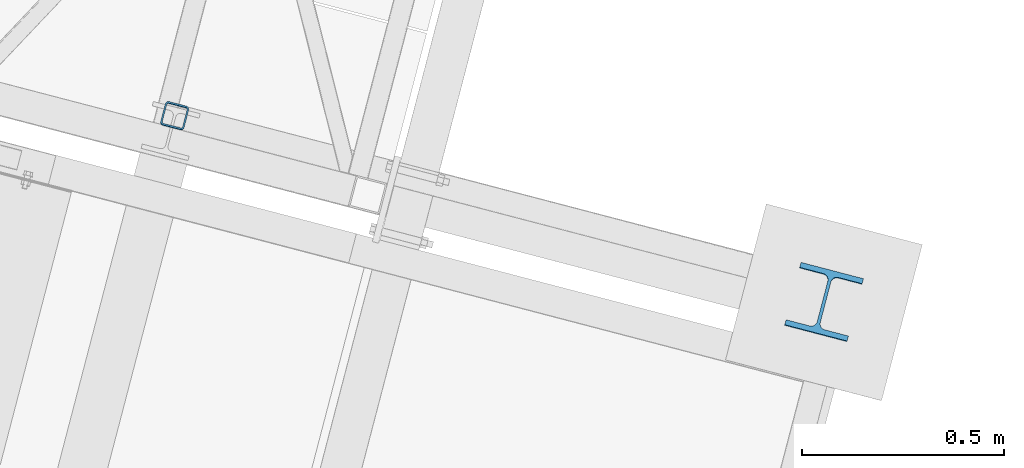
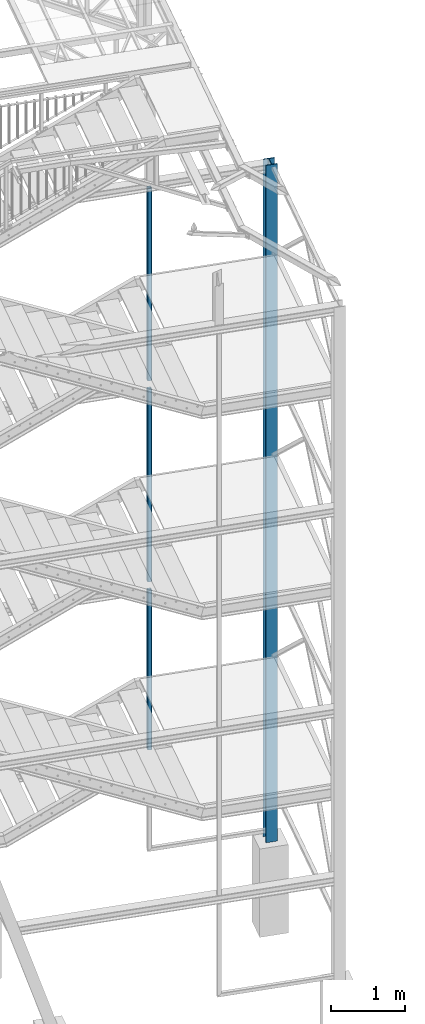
# One storey, part 13 of 169: 4 beams, 4 elements without a shape of their own.
"""IFC2X3 building model written with IfcOpenShell, lengths in millimetres."""

from ifc_helpers import new_model, si_unit, frame, origin_with_axes, origin_2d_with_axis, place, context, subcontext, project, spatial, hollow_rectangle, i_section, extrude, material, type_object, element, aggregate, save


model = new_model("IFC2X3")

# Units and contexts
model_context = context("Model", 3, precision=1e-05, world=origin_with_axes())
body_context = subcontext(model_context, "Body", "Model", "MODEL_VIEW")
ifc_project = project(units=[si_unit("LENGTHUNIT", "METRE", prefix="MILLI"), si_unit("AREAUNIT", "SQUARE_METRE"), si_unit("VOLUMEUNIT", "CUBIC_METRE"), si_unit("MASSUNIT", "GRAM", prefix="KILO"), si_unit("TIMEUNIT", "SECOND"), si_unit("PLANEANGLEUNIT", "RADIAN"), si_unit("SOLIDANGLEUNIT", "STERADIAN"), si_unit("THERMODYNAMICTEMPERATUREUNIT", "DEGREE_CELSIUS"), si_unit("LUMINOUSINTENSITYUNIT", "LUMEN")], contexts=[model_context])

# Site, building, storey
site_placement = place(None, origin_with_axes())
site = spatial("IfcSite", under=ifc_project, at=site_placement, Name="Undefined", CompositionType="ELEMENT")
building_placement = place(site_placement, origin_with_axes())
building = spatial("IfcBuilding", under=site, at=building_placement, Name="Undefined", CompositionType="ELEMENT")
storey_placement = place(building_placement, origin_with_axes())
storey = spatial("IfcBuildingStorey", under=building, at=storey_placement, Name="Undefined", CompositionType="ELEMENT", Elevation=0.0)

# Assembly, beam
assembly_1_placement = place(storey_placement, origin_with_axes())
assembly_1 = element("IfcElementAssembly", 1, at=assembly_1_placement, inside=storey, Name="Steel Assembly", AssemblyPlace="NOTDEFINED", PredefinedType="RIGID_FRAME")
ifc_material = material(Name="STEEL/S235")
beam_type_1 = type_object("IfcBeamType", Name="SHS60*4", PredefinedType="NOTDEFINED")
beam_1_placement = place(assembly_1_placement, frame((-24117.677164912, 8116.42800219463, 5399.9665402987), z_axis=(-0.967563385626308, 0.252628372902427, -1.72000000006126e-07), x_axis=(-3.45692487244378e-05, -0.000132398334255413, -0.999999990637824)))
beam_1 = element("IfcBeam", 2, at=beam_1_placement, type_object=beam_type_1, material=ifc_material, Name="BEAM", ObjectType="SHS60*4", context=body_context, shape_type="SweptSolid", body=[
    extrude(hollow_rectangle(XDim=60.0, YDim=60.0, WallThickness=4.0, InnerFilletRadius=4.0, OuterFilletRadius=8.0, at=origin_2d_with_axis()), frame((2619.99999999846, -4.54818366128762e-13, 3.6379875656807e-12), z_axis=(-1.0, -3.46944695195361e-18, -1.38777878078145e-17), x_axis=(1.73472347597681e-18, -1.0, 0.0)), (0.0, 0.0, 1.0), 2620.0),
])
aggregate(assembly_1, [beam_1])

assembly_2_placement = place(storey_placement, origin_with_axes())
assembly_2 = element("IfcElementAssembly", 3, at=assembly_2_placement, inside=storey, Name="Steel Assembly", AssemblyPlace="NOTDEFINED", PredefinedType="RIGID_FRAME")
beam_2_placement = place(assembly_2_placement, frame((-24117.4490101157, 8117.30183209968, 11999.9664785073), z_axis=(-0.967563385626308, 0.252628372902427, -1.72000000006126e-07), x_axis=(-3.45692487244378e-05, -0.000132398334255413, -0.999999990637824)))
beam_2 = element("IfcBeam", 4, at=beam_2_placement, type_object=beam_type_1, material=ifc_material, Name="BEAM", ObjectType="SHS60*4", context=body_context, shape_type="SweptSolid", body=[
    extrude(hollow_rectangle(XDim=60.0, YDim=60.0, WallThickness=4.0, InnerFilletRadius=4.0, OuterFilletRadius=8.0, at=origin_2d_with_axis()), frame((3159.99999999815, -4.54661698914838e-13, 7.27594675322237e-12), z_axis=(-1.0, -3.46944695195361e-18, -1.38777878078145e-17), x_axis=(1.73472347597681e-18, -1.0, 0.0)), (0.0, 0.0, 1.0), 3160.0),
])
aggregate(assembly_2, [beam_2])

assembly_3_placement = place(storey_placement, origin_with_axes())
assembly_3 = element("IfcElementAssembly", 5, at=assembly_3_placement, inside=storey, Name="Steel Assembly", AssemblyPlace="NOTDEFINED", PredefinedType="RIGID_FRAME")
beam_3_placement = place(assembly_3_placement, frame((-24117.5630875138, 8116.86491714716, 8699.96650940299), z_axis=(-0.967563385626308, 0.252628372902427, -1.72000000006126e-07), x_axis=(-3.45692487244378e-05, -0.000132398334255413, -0.999999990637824)))
beam_3 = element("IfcBeam", 6, at=beam_3_placement, type_object=beam_type_1, material=ifc_material, Name="BEAM", ObjectType="SHS60*4", context=body_context, shape_type="SweptSolid", body=[
    extrude(hollow_rectangle(XDim=60.0, YDim=60.0, WallThickness=4.0, InnerFilletRadius=4.0, OuterFilletRadius=8.0, at=origin_2d_with_axis()), frame((3159.99999999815, -4.54661698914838e-13, 7.27594675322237e-12), z_axis=(-1.0, -3.46944695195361e-18, -1.38777878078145e-17), x_axis=(1.73472347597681e-18, -1.0, 0.0)), (0.0, 0.0, 1.0), 3160.0),
])
aggregate(assembly_3, [beam_3])

assembly_4_placement = place(storey_placement, origin_with_axes())
assembly_4 = element("IfcElementAssembly", 7, at=assembly_4_placement, inside=storey, Name="Steel Assembly", AssemblyPlace="NOTDEFINED", PredefinedType="RIGID_FRAME")
beam_type_2 = type_object("IfcBeamType", Name="HEB160", PredefinedType="NOTDEFINED")
beam_4_placement = place(assembly_4_placement, frame((-22507.2650406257, 7653.99303721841, 1019.97205478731), z_axis=(0.252628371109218, 0.967563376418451, -0.000136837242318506), x_axis=(3.4552000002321e-05, 0.000132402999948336, 0.999999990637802)))
beam_4 = element("IfcBeam", 8, at=beam_4_placement, type_object=beam_type_2, material=ifc_material, Name="COLUMN", ObjectType="HEB160", context=body_context, shape_type="SweptSolid", body=[
    extrude(i_section(OverallWidth=160.0, OverallDepth=160.0, WebThickness=8.0, FlangeThickness=13.0, FilletRadius=15.0, at=origin_2d_with_axis()), frame((11119.9999999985, 3.63793575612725e-12, 9.09494701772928e-13), z_axis=(-1.0, -3.46944695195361e-18, -1.38777878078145e-17), x_axis=(1.73472347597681e-18, -1.0, 0.0)), (0.0, 0.0, 1.0), 11120.0),
])
aggregate(assembly_4, [beam_4])

save(model, "model.ifc")
